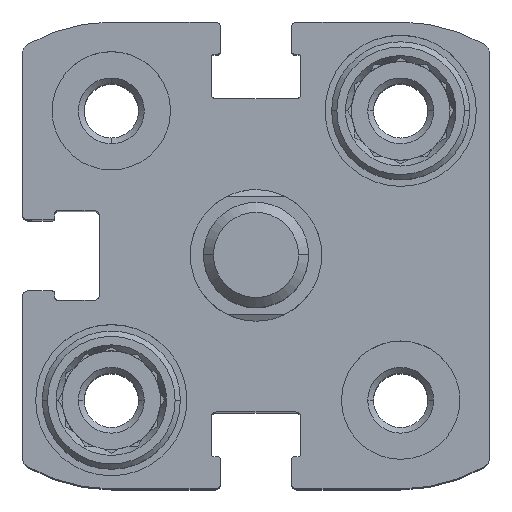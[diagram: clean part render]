
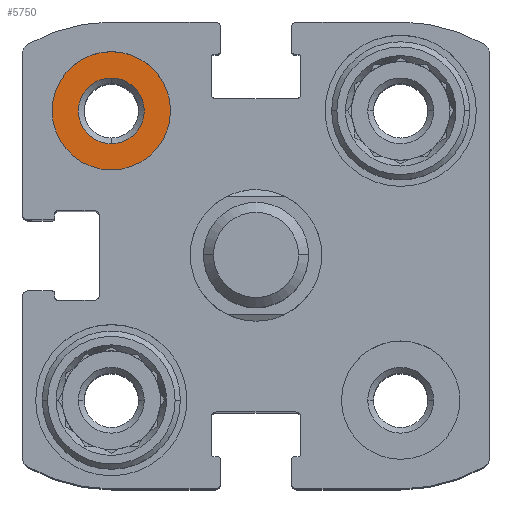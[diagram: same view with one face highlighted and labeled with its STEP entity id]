
A CAD part, top view. The second image highlights one B-rep face of the part: STEP entity #5750.
In plain terms, the highlighted planar face has unit normal (0, 0, 1).
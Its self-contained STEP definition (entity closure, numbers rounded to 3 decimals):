
#9 = DIRECTION ( 'NONE',  ( 0., 0., -1. ) ) ;
#129 = DIRECTION ( 'NONE',  ( 0., 1., 0. ) ) ;
#217 = DIRECTION ( 'NONE',  ( 1., 0., 0. ) ) ;
#1106 = EDGE_CURVE ( 'NONE', #12690, #2774, #2008, .T. ) ;
#1380 = FACE_BOUND ( 'NONE', #7854, .T. ) ;
#1561 = CARTESIAN_POINT ( 'NONE',  ( -11., 13.5, -4.8 ) ) ;
#1901 = AXIS2_PLACEMENT_3D ( 'NONE', #12505, #9, #8435 ) ;
#2008 = CIRCLE ( 'NONE', #12841, 4.5 ) ;
#2107 = EDGE_LOOP ( 'NONE', ( #6281, #10037 ) ) ;
#2377 = DIRECTION ( 'NONE',  ( 0., 0., -1. ) ) ;
#2599 = DIRECTION ( 'NONE',  ( 0., 1., 0. ) ) ;
#2774 = VERTEX_POINT ( 'NONE', #4060 ) ;
#3421 = CIRCLE ( 'NONE', #1901, 2.5 ) ;
#4060 = CARTESIAN_POINT ( 'NONE',  ( -11., 6.5, -4.8 ) ) ;
#4313 = EDGE_CURVE ( 'NONE', #2774, #12690, #7262, .T. ) ;
#4372 = CARTESIAN_POINT ( 'NONE',  ( -11., 15.5, -4.8 ) ) ;
#4447 = ORIENTED_EDGE ( 'NONE', *, *, #4978, .T. ) ;
#4768 = DIRECTION ( 'NONE',  ( 0., 0., -1. ) ) ;
#4978 = EDGE_CURVE ( 'NONE', #12468, #9517, #3421, .T. ) ;
#5516 = CARTESIAN_POINT ( 'NONE',  ( -11., 11., -4.8 ) ) ;
#5737 = CARTESIAN_POINT ( 'NONE',  ( -11., 15.5, -4.8 ) ) ;
#5750 = ADVANCED_FACE ( 'NONE', ( #10740, #1380 ), #7685, .T. ) ;
#5910 = EDGE_CURVE ( 'NONE', #9517, #12468, #9925, .T. ) ;
#6281 = ORIENTED_EDGE ( 'NONE', *, *, #1106, .F. ) ;
#6673 = DIRECTION ( 'NONE',  ( 0., 0., -1. ) ) ;
#7262 = CIRCLE ( 'NONE', #12464, 4.5 ) ;
#7392 = CARTESIAN_POINT ( 'NONE',  ( -11., 11., -4.8 ) ) ;
#7685 = PLANE ( 'NONE',  #10798 ) ;
#7818 = CARTESIAN_POINT ( 'NONE',  ( -11., 11., -4.8 ) ) ;
#7854 = EDGE_LOOP ( 'NONE', ( #4447, #8048 ) ) ;
#8048 = ORIENTED_EDGE ( 'NONE', *, *, #5910, .T. ) ;
#8435 = DIRECTION ( 'NONE',  ( 0., 1., 0. ) ) ;
#8903 = DIRECTION ( 'NONE',  ( 0., 1., 0. ) ) ;
#9067 = AXIS2_PLACEMENT_3D ( 'NONE', #7818, #4768, #8903 ) ;
#9517 = VERTEX_POINT ( 'NONE', #1561 ) ;
#9925 = CIRCLE ( 'NONE', #9067, 2.5 ) ;
#9947 = CARTESIAN_POINT ( 'NONE',  ( -11., 8.5, -4.8 ) ) ;
#10037 = ORIENTED_EDGE ( 'NONE', *, *, #4313, .F. ) ;
#10740 = FACE_OUTER_BOUND ( 'NONE', #2107, .T. ) ;
#10798 = AXIS2_PLACEMENT_3D ( 'NONE', #4372, #12716, #217 ) ;
#12464 = AXIS2_PLACEMENT_3D ( 'NONE', #7392, #2377, #129 ) ;
#12468 = VERTEX_POINT ( 'NONE', #9947 ) ;
#12505 = CARTESIAN_POINT ( 'NONE',  ( -11., 11., -4.8 ) ) ;
#12690 = VERTEX_POINT ( 'NONE', #5737 ) ;
#12716 = DIRECTION ( 'NONE',  ( 0., 0., 1. ) ) ;
#12841 = AXIS2_PLACEMENT_3D ( 'NONE', #5516, #6673, #2599 ) ;
